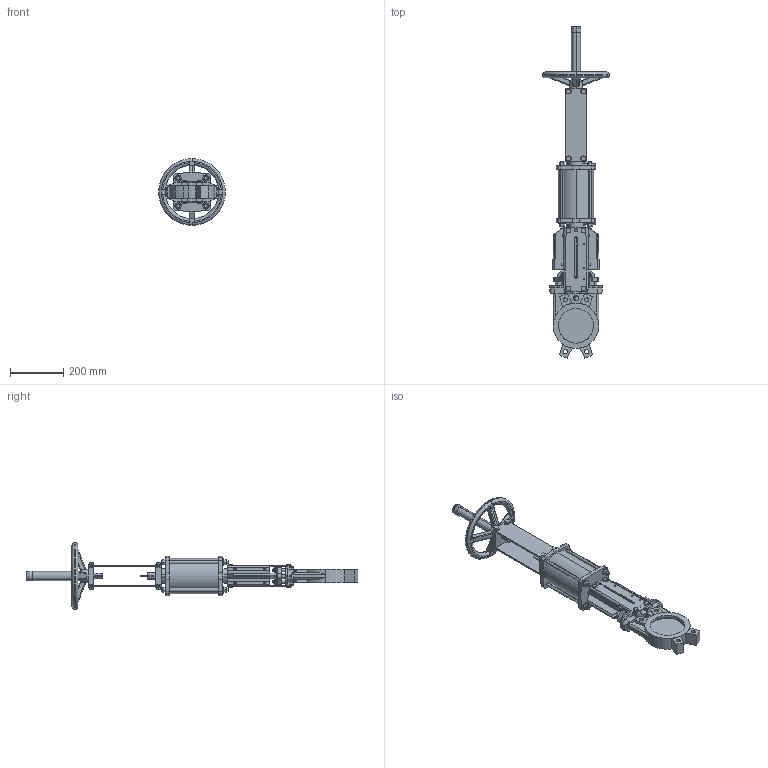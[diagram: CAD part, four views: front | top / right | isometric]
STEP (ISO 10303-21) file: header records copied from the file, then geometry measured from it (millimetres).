
FILE_DESCRIPTION (( 'STEP AP203' ), '1' );
FILE_NAME ('VG D DN125.STEP', '2010-01-27T07:42:47', ( 'farex' ), ( '' ), 'SwSTEP 2.0', 'SolidWorks 2009', '' );
FILE_SCHEMA (( 'CONFIG_CONTROL_DESIGN' ));
Length unit declared in the file: millimetre
Products named in the file (1): VG D DN125
Bounding box: 250 x 1242.53 x 250 mm (x, y, z)
Volume: 4004144.6 mm3; surface area: 975440.3 mm2
Topology: 6 solids, 34 shells, 1439 faces, 3641 edges, 2360 vertices
Faces by surface type: plane 811, cylinder 429, cone 86, bspline 64, torus 49
Entity records: 47651 total; most frequent: CARTESIAN_POINT 12890, ORIENTED_EDGE 7282, DIRECTION 7046, EDGE_CURVE 3641, AXIS2_PLACEMENT_3D 2432, VERTEX_POINT 2360, VECTOR 2182, LINE 2182
